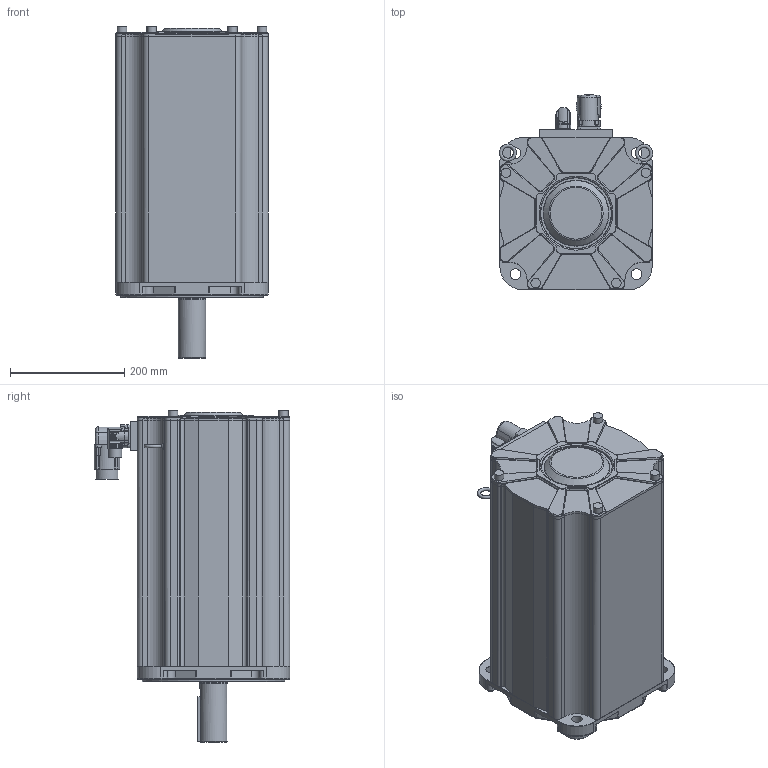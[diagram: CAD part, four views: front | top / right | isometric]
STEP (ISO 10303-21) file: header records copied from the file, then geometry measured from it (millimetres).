
FILE_DESCRIPTION((''),'2;1');
FILE_NAME('C:\CAD_work\Dummy_Modeling_Project_02-12-05\3D MODELS\MPP2708XXX_NPSB.stp','2006-02-03T10:46:18',('jevans'),(''),'Autodesk Inventor 10','Autodesk Inventor 10','');
FILE_SCHEMA(('AUTOMOTIVE_DESIGN { 1 0 10303 214 1 1 1 1 }'));
Length unit declared in the file: inch
Products named in the file (1): MPP270_MOTOR
Bounding box: 268.72 x 341.91 x 581.2 mm (x, y, z)
Volume: 28693847.5 mm3; surface area: 750044.5 mm2
Topology: 1 solids, 8 shells, 961 faces, 2362 edges, 1475 vertices
Faces by surface type: cylinder 404, plane 347, bspline 129, torus 65, cone 16
Full cylindrical faces by diameter (mm): 1.016 x17, 2 x2, 3.6 x4, 16.662 x4, 19.05 x1, 19.685 x1, 22.86 x1, 32.639 x1, 39.624 x1, 47.663 x1, 48.019 x1, 51.892 x1, 69.85 x1, 72.023 x1, 88.9 x1, 106.68 x1, 119.99 x1, 120 x1, 120.018 x1, 120.272 x2, 124.46 x1, 133.349 x1, 133.35 x1, 250.001 x1
Entity records: 32172 total; most frequent: CARTESIAN_POINT 10100, DIRECTION 4687, ORIENTED_EDGE 4484, EDGE_CURVE 2242, AXIS2_PLACEMENT_3D 1825, VERTEX_POINT 1440, EDGE_LOOP 1116, VECTOR 1037
